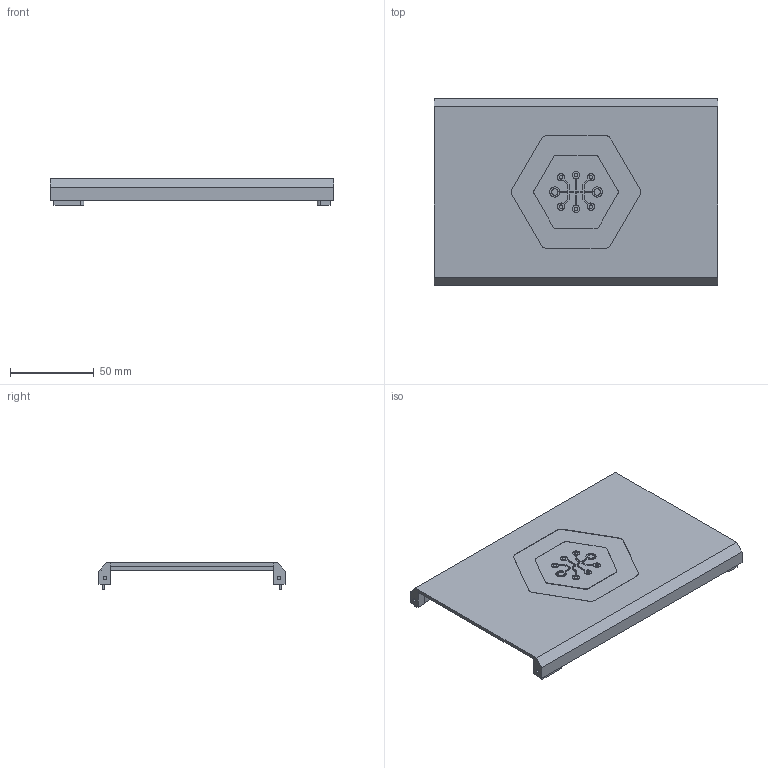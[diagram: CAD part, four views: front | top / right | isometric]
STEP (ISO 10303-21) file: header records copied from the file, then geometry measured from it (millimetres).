
FILE_DESCRIPTION(/* description */ ('Mechanical assembly'),/* implementation_level */ '2;1');
FILE_NAME(/* name */ 'cnc-milled-top-cover-al.step',/* author */ 'Antmicro',/* time_stamp */ '2026-04-10T14:20:06.931432+02:00',/* commit_sha */ 'eddb39f28ccbc5f8daa44304dfdfea7f8db63fb1',/* commit_msg */ '[#94115] Update part description',/* generator */ 'stephen',/* generator_ver */ '0.0.1');
FILE_SCHEMA(('AUTOMOTIVE_DESIGN { 1 0 10303 214 1 1 1 1 }'));
Length unit declared in the file: millimetre
Products named in the file (1): C-JAT-TC-AL-A
Bounding box: 169 x 111 x 15.76 mm (x, y, z)
Volume: 63766.6 mm3; surface area: 46515.2 mm2
Topology: 1 solids, 3 shells, 253 faces, 658 edges, 435 vertices
Faces by surface type: plane 130, bspline 96, cylinder 27
Full cylindrical faces by diameter (mm): 2.075 x4, 3.332 x8
Entity records: 16783 total; most frequent: CARTESIAN_POINT 5160, DIRECTION 1552, ORIENTED_EDGE 1316, PCURVE 1316, DEFINITIONAL_REPRESENTATION 1316, LINE 1092, VECTOR 1092, B_SPLINE_CURVE_WITH_KNOTS 770
